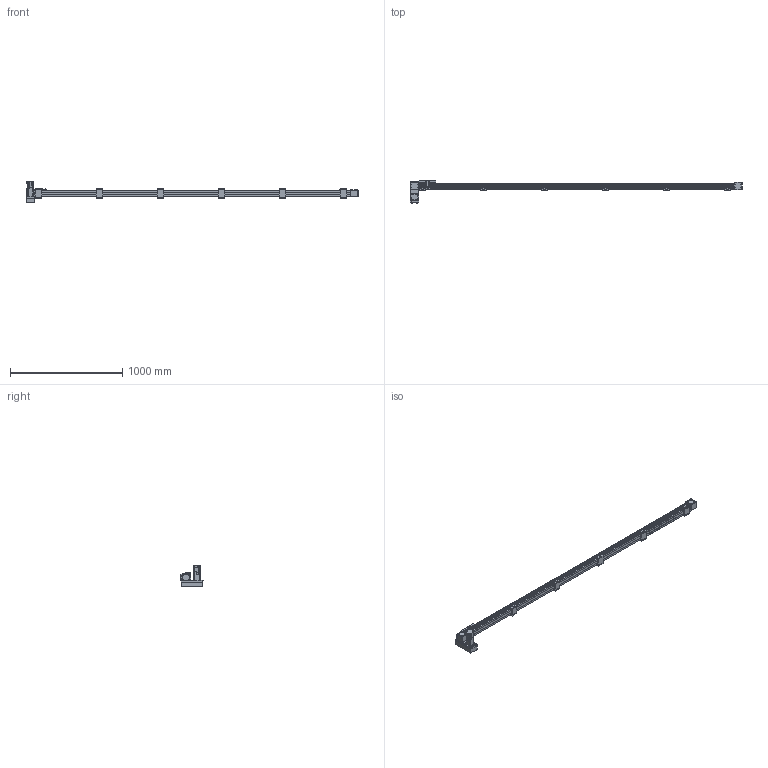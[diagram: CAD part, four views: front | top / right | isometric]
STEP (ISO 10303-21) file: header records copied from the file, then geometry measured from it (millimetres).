
FILE_DESCRIPTION(/* description */ ('STEP AP214'),/* implementation_level */ '2;1');
FILE_NAME(/* name */ 'SK60-P13-S2650-LD-T40-C1-N(0)',/* time_stamp */ '2023-04-06T04:40:02+02:00',/* author */ ('License CC BY-ND 4.0'),/* organization */ ('CADENAS'),/* preprocessor_version */ 'ST-DEVELOPER v19.3',/* originating_system */ 'PARTsolutions',/* authorisation */ ' ');
FILE_SCHEMA (('AUTOMOTIVE_DESIGN {1 0 10303 214 3 1 1}'));
Length unit declared in the file: millimetre
Products named in the file (10): SK60-P13-S2650-LD-T40-C1-N(0); PSC140-sensor; SK60-S450_seat; SK60-S450-BL-C1_slider; SK60_body3; SK60_body6; SK60-BL_body2; T40-p1; SK60-LD_fb; SK60-S2650-LD-C1_body
Assembly tree (20 placements, depth 2):
  SK60-P13-S2650-LD-T40-C1-N(0)
    PSC140-sensor  x3
    SK60-S450_seat  x6
    SK60-S450-BL-C1_slider
    SK60_body3  x3
    SK60_body6  x2
    SK60-BL_body2  x2
    T40-p1
    SK60-LD_fb
    SK60-S2650-LD-C1_body
Bounding box: 2955.5 x 199 x 189.7 mm (x, y, z)
Volume: 11253717.6 mm3; surface area: 1327566.1 mm2
Topology: 20 solids, 20 shells, 986 faces, 2440 edges, 1605 vertices
Faces by surface type: plane 620, cylinder 326, cone 38, torus 2
Full cylindrical faces by diameter (mm): 2.8 x3, 3.3 x4, 4 x2, 4.5 x30, 4.6 x3, 4.917 x32, 5 x6, 5.478 x4, 5.5 x35, 6.5 x12, 7 x2, 8 x4, 8.5 x4, 9.988 x4, 10 x24, 14 x1, 47 x3, 50 x2
Entity records: 18687 total; most frequent: DIRECTION 3192, CARTESIAN_POINT 3154, ORIENTED_EDGE 2940, EDGE_CURVE 1470, AXIS2_PLACEMENT_3D 1072, LINE 1048, VECTOR 1048, VERTEX_POINT 1034
